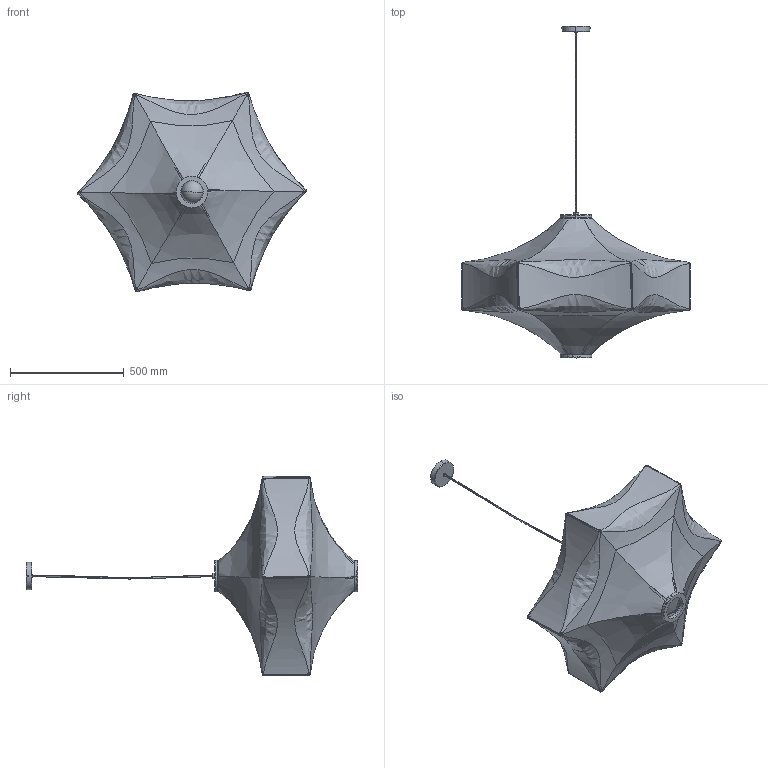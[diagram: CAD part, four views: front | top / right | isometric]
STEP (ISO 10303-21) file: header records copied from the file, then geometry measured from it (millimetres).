
FILE_DESCRIPTION (( 'STEP AP203' ), '1' );
FILE_NAME ('ATP-X17-S100-R01 - Sito.STEP', '2024-09-20T09:24:49', ( '' ), ( '' ), 'SwSTEP 2.0', 'SolidWorks 2024', '' );
FILE_SCHEMA (( 'CONFIG_CONTROL_DESIGN' ));
Length unit declared in the file: millimetre
Products named in the file (15): Grano con Cava Esagonale UNI-5923_GRANO M4X12 ESTREMITA'' PIANA UNI-5923; ATA-X17-S103-R01 - Sito; Legno piegato - Sito; ATC-X17-S121-R00 - Sito_Default<A macchina>; ATC-X17-S120-R00 - Sito; ATP-X17-S100-R01 - Sito; ATC-X17-S107-R01 - Sito; ATC-X17-S111-R00; ATC-X17-S104-R00 - Sito; ATC-X17-S123-R00; ATA-X17-S105-R01 - Sito; Viti a Testa Bombata e Cava Esagonale ISO-7380_VITE M3X10 TBCE ISO-7380 ; Lamp. E27 Led Globo 95 Full_LAMPADINA E27 CL A 60 6W 827; Cavo alimentazione - Sito; ATA-X17-S104-R01 - Sito
Assembly tree (31 placements, depth 4):
  ATP-X17-S100-R01 - Sito
    ATA-X17-S103-R01 - Sito
      Cavo alimentazione - Sito
      Lamp. E27 Led Globo 95 Full_LAMPADINA E27 CL A 60 6W 827
      Viti a Testa Bombata e Cava Esagonale ISO-7380_VITE M3X10 TBCE ISO-7380   x2
      ATC-X17-S120-R00 - Sito
      ATC-X17-S121-R00 - Sito_Default<A macchina>
    ATA-X17-S104-R01 - Sito
      Grano con Cava Esagonale UNI-5923_GRANO M4X12 ESTREMITA'' PIANA UNI-5923
      ATA-X17-S105-R01 - Sito  x2
        ATC-X17-S104-R00 - Sito
      ATC-X17-S111-R00  x6
      ATC-X17-S107-R01 - Sito
      Legno piegato - Sito  x6
    ATC-X17-S123-R00
Bounding box: 1003.62 x 1458.28 x 877.95 mm (x, y, z)
Volume: 1605361.8 mm3; surface area: 2392889.4 mm2
Topology: 51 solids, 52 shells, 621 faces, 1399 edges, 891 vertices
Faces by surface type: plane 276, cylinder 183, bspline 123, cone 21, torus 14, sphere 4
Entity records: 44703 total; most frequent: CARTESIAN_POINT 37113, ORIENTED_EDGE 1216, DIRECTION 1012, EDGE_CURVE 614, AXIS2_PLACEMENT_3D 412, VERTEX_POINT 388, EDGE_LOOP 292, ADVANCED_FACE 275
